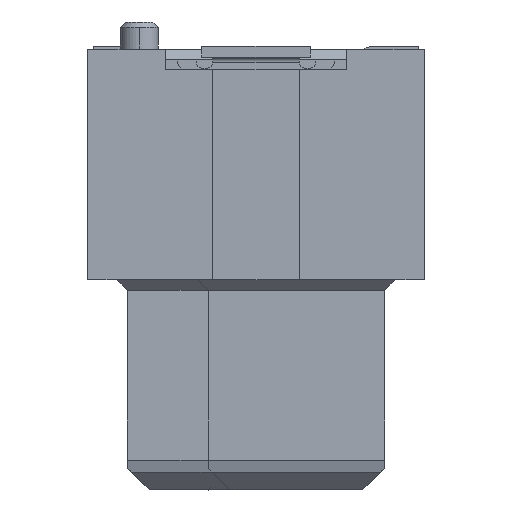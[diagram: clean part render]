
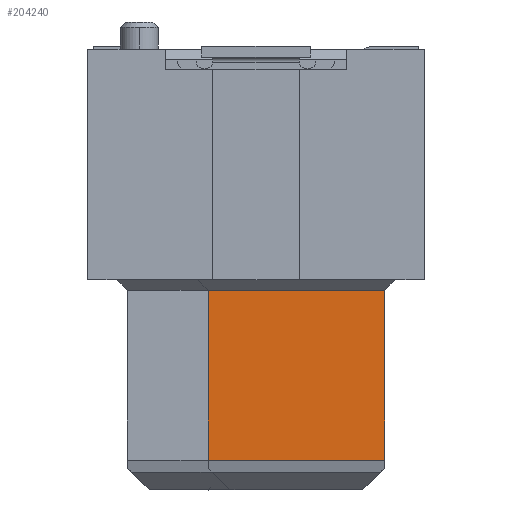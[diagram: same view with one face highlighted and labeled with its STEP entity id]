
A CAD part, left-side view. The second image highlights one B-rep face of the part: STEP entity #204240.
In plain terms, the highlighted planar face has unit normal (-1, 0, 0).
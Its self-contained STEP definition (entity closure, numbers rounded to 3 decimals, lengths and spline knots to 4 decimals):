
#116000=CARTESIAN_POINT('',(-38.6975,1.44,
3.06));
#116010=VERTEX_POINT('',#116000);
#116040=CARTESIAN_POINT('',(-38.6975,1.44,
10.39));
#116050=DIRECTION('',(0.,0.,
1.));
#116060=VECTOR('',#116050,1.);
#116070=LINE('',#116040,#116060);
#116080=CARTESIAN_POINT('',(-38.6975,1.44,
6.19));
#116090=VERTEX_POINT('',#116080);
#116100=EDGE_CURVE('',#116010,#116090,#116070,.T.);
#201840=CARTESIAN_POINT('',(-38.6975,4.69,
3.06));
#201850=VERTEX_POINT('',#201840);
#201880=CARTESIAN_POINT('',(-38.6975,4.64,
3.06));
#201890=DIRECTION('',(0.,1.,
0.));
#201900=VECTOR('',#201890,1.);
#201910=LINE('',#201880,#201900);
#201920=EDGE_CURVE('',#116010,#201850,#201910,.T.);
#202990=CARTESIAN_POINT('',(-38.6975,4.69,
6.19));
#203000=VERTEX_POINT('',#202990);
#203050=CARTESIAN_POINT('',(-38.6975,4.69,
10.39));
#203060=DIRECTION('',(0.,0.,
-1.));
#203070=VECTOR('',#203060,1.);
#203080=LINE('',#203050,#203070);
#203090=EDGE_CURVE('',#203000,#201850,#203080,.T.);
#204040=CARTESIAN_POINT('',(-38.6975,4.64,
6.19));
#204050=DIRECTION('',(0.,1.,
0.));
#204060=VECTOR('',#204050,1.);
#204070=LINE('',#204040,#204060);
#204080=EDGE_CURVE('',#116090,#203000,#204070,.T.);
#204130=CARTESIAN_POINT('',(-38.6975,3.81,
4.65));
#204140=DIRECTION('',(-1.,0.,0.));
#204150=DIRECTION('',(0.,1.,
0.));
#204160=AXIS2_PLACEMENT_3D('',#204130,#204140,#204150);
#204170=PLANE('',#204160);
#204180=ORIENTED_EDGE('',*,*,#203090,.T.);
#204190=ORIENTED_EDGE('',*,*,#204080,.T.);
#204200=ORIENTED_EDGE('',*,*,#116100,.T.);
#204210=ORIENTED_EDGE('',*,*,#201920,.F.);
#204220=EDGE_LOOP('',(#204210,#204200,#204190,#204180));
#204230=FACE_OUTER_BOUND('',#204220,.T.);
#204240=ADVANCED_FACE('',(#204230),#204170,.T.);
